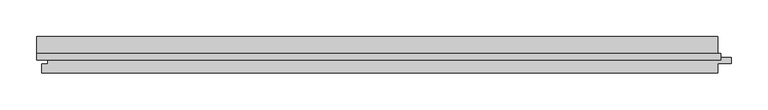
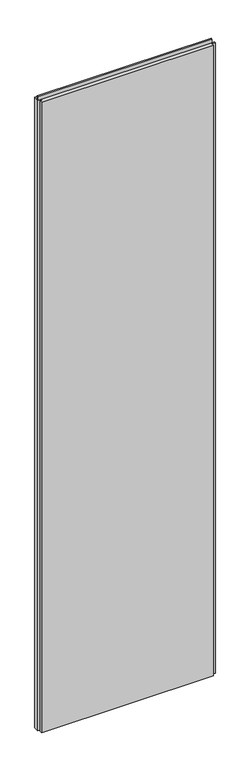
"""IFC4 building model written with IfcOpenShell, lengths in millimetres: plate geometry, Trimo_Qbiss Screen_Normal Panel-VERTICAL : HR - FB."""

from ifc_helpers import new_model, si_unit, frame, origin, place, context, project, spatial, polyline, outline, extrude, source, transform, mapped, element, save


def plate_72ce43b0(model_context):
    return source(origin(), model_context, "Body", "SweptSolid", [
        extrude(outline(polyline([(-467.0, 93.9), (-467.0, 102.6), (467.0, 102.6), (467.0, 93.9), (-467.0, 93.9)])), frame((0.0, 0.0, 3590.5), z_axis=(0.0, 0.0, 1.0), x_axis=(1.0, 0.0, 0.0)), (0.0, 0.0, 1.0), 19.0),
        extrude(outline(polyline([(463.0, 97.0), (481.5, 97.0), (481.5, 89.0), (463.0, 89.0), (463.0, 76.0), (-460.0, 76.0), (-460.0, 88.0), (-451.5, 88.0), (-451.5, 98.0), (-467.0, 98.0), (-467.0, 126.0), (463.0, 126.0), (463.0, 97.0)])), frame((0.0, 0.0, 12.5), z_axis=(0.0, 0.0, 1.0), x_axis=(1.0, 0.0, 0.0)), (0.0, 0.0, 1.0), 3575.0),
    ])


if __name__ == "__main__":
    model = new_model("IFC4")
    model_context = context("Model", 3, world=origin())
    ifc_project = project(units=[si_unit("LENGTHUNIT", "METRE", prefix="MILLI")], contexts=[model_context])
    site = spatial("IfcSite", under=ifc_project)
    building = spatial("IfcBuilding", under=site)
    placement = place(None, origin())
    plate_shape = plate_72ce43b0(model_context)
    element("IfcPlate", 1, ObjectType="Trimo_Qbiss Screen_Normal Panel-VERTICAL : HR - FB", at=placement, inside=building, context=model_context, shape_type="MappedRepresentation", body=[
        mapped(plate_shape, transform((0.0, 0.0, 0.0), x_axis=(1.0, 0.0, 0.0), y_axis=(0.0, 1.0, 0.0), z_axis=(0.0, 0.0, 1.0))),
    ])
    save(model, "model.ifc")
